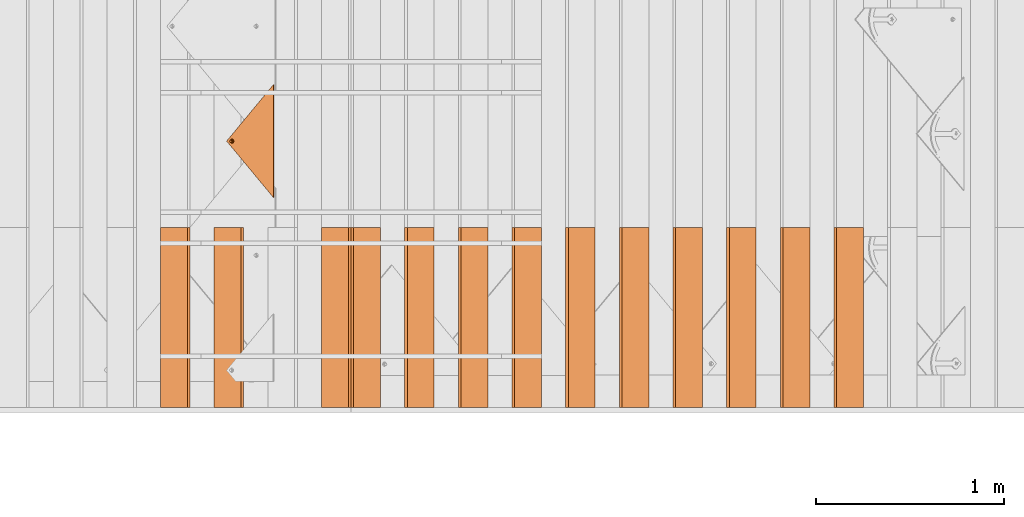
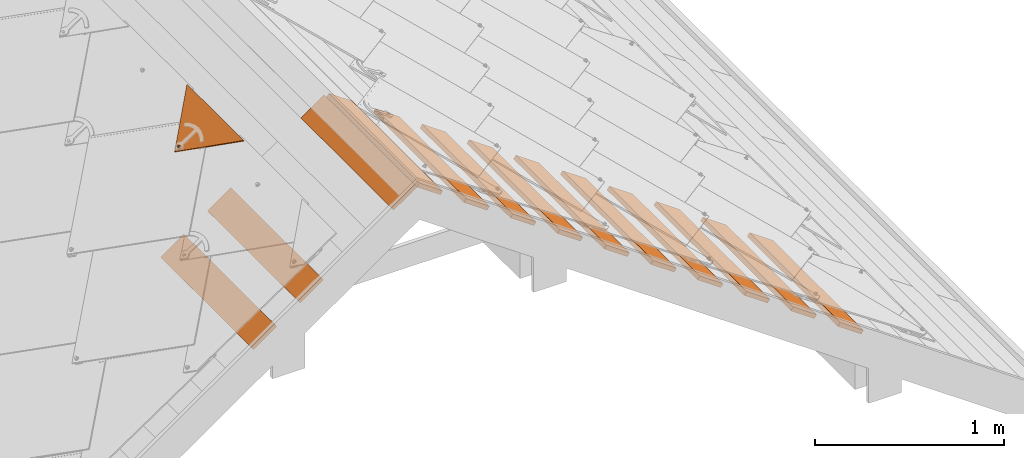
# One storey, part 99 of 133: 14 proxies, 1 element without a shape of its own.
"""IFC2X3 building model written with IfcOpenShell, lengths in millimetres."""

from ifc_helpers import new_model, entity, si_unit, converted_unit, derived_unit, direction, frame, frame_2d, origin, place, context, subcontext, project, spatial, rectangle, extrude, faceted_brep, source, transform, mapped, material, material_list, type_object, type_shapes, element, aggregate, save


model = new_model("IFC2X3")

# Units and contexts
model_context = context("Model", 3, precision=0.01, world=origin(), true_north=direction((6.12303176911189e-17, 1.0)))
body_context = subcontext(model_context, "Body", "Model", "MODEL_VIEW")
ifc_project = project(units=[si_unit("LENGTHUNIT", "METRE", prefix="MILLI"), si_unit("AREAUNIT", "SQUARE_METRE"), si_unit("VOLUMEUNIT", "CUBIC_METRE"), converted_unit("PLANEANGLEUNIT", "DEGREE", entity("IfcRatioMeasure", 0.0174532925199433), si_unit("PLANEANGLEUNIT", "RADIAN"), dimensions=[0, 0, 0, 0, 0, 0, 0]), si_unit("MASSUNIT", "GRAM", prefix="KILO"), derived_unit("MASSDENSITYUNIT", [(si_unit("MASSUNIT", "GRAM", prefix="KILO"), 1), (si_unit("LENGTHUNIT", "METRE"), -3)]), si_unit("TIMEUNIT", "SECOND"), si_unit("FREQUENCYUNIT", "HERTZ"), si_unit("THERMODYNAMICTEMPERATUREUNIT", "DEGREE_CELSIUS"), derived_unit("THERMALTRANSMITTANCEUNIT", [(si_unit("MASSUNIT", "GRAM", prefix="KILO"), 1), (si_unit("THERMODYNAMICTEMPERATUREUNIT", "KELVIN"), -1), (si_unit("TIMEUNIT", "SECOND"), -3)]), derived_unit("VOLUMETRICFLOWRATEUNIT", [(si_unit("LENGTHUNIT", "METRE"), 3), (si_unit("TIMEUNIT", "SECOND"), -1)]), si_unit("ELECTRICCURRENTUNIT", "AMPERE"), si_unit("ELECTRICVOLTAGEUNIT", "VOLT"), si_unit("POWERUNIT", "WATT"), si_unit("FORCEUNIT", "NEWTON", prefix="KILO"), si_unit("ILLUMINANCEUNIT", "LUX"), si_unit("LUMINOUSFLUXUNIT", "LUMEN"), si_unit("LUMINOUSINTENSITYUNIT", "CANDELA"), derived_unit("USERDEFINED", [(si_unit("MASSUNIT", "GRAM", prefix="KILO"), -1), (si_unit("LENGTHUNIT", "METRE"), -2), (si_unit("TIMEUNIT", "SECOND"), 3), (si_unit("LUMINOUSFLUXUNIT", "LUMEN"), 1)]), derived_unit("LINEARVELOCITYUNIT", [(si_unit("LENGTHUNIT", "METRE"), 1), (si_unit("TIMEUNIT", "SECOND"), -1)]), si_unit("PRESSUREUNIT", "PASCAL"), derived_unit("USERDEFINED", [(si_unit("LENGTHUNIT", "METRE"), -2), (si_unit("MASSUNIT", "GRAM", prefix="KILO"), 1), (si_unit("TIMEUNIT", "SECOND"), -2)])], contexts=[model_context])

# Site, building, storey
site_placement = place(None, origin())
site = spatial("IfcSite", under=ifc_project, at=site_placement, Name="Default", CompositionType="ELEMENT")
building_placement = place(site_placement, origin())
building = spatial("IfcBuilding", under=site, at=building_placement, CompositionType="ELEMENT")
storey_placement = place(building_placement, origin())
storey = spatial("IfcBuildingStorey", under=building, at=storey_placement, Name="Level 1", CompositionType="ELEMENT", Elevation=0.0)

# Assembly, proxies
assembly_placement = place(storey_placement, origin())
assembly = element("IfcElementAssembly", 1, at=assembly_placement, inside=storey, Name="Structural Framing Assembly:Roof Construction Assembly", ObjectType="Structural Framing Assembly:Roof Construction Assembly", AssemblyPlace="NOTDEFINED", PredefinedType="USERDEFINED")
ifc_material_1 = material(Name="Wood - Generic - Wood For Showcase")
building_element_proxy_type_1 = type_object("IfcBuildingElementProxyType", Name="Structural Framing 15", PredefinedType="NOTDEFINED", material=ifc_material_1)
shared_shape_1 = source(origin(), body_context, "Body", "SweptSolid", [
    extrude(rectangle(XDim=24.9999999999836, YDim=174.344679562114, at=frame_2d((3.79252185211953e-13, 7.105427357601e-14), x_axis=(1.0, 0.0))), frame((1285.3560130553, 2967.09519417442, 2760.23940055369), z_axis=(0.0, 1.0, 0.0), x_axis=(0.573576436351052, 0.0, 0.819152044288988)), (0.0, 0.0, 1.0), 958.455607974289),
])
type_shapes(building_element_proxy_type_1, [shared_shape_1])
proxy_1_placement = place(assembly_placement, frame((0.0, -9670.0, 0.0)))
proxy_1 = element("IfcBuildingElementProxy", 2, at=proxy_1_placement, type_object=building_element_proxy_type_1, material=ifc_material_1, Name="Structural Framing 159:Structural Framing 15", ObjectType="Structural Framing 159:Structural Framing 15", context=body_context, shape_type="MappedRepresentation", body=[
    mapped(shared_shape_1, transform((0.0, 0.0, 0.0), scale=1.0)),
])
building_element_proxy_type_2 = type_object("IfcBuildingElementProxyType", Name="Structural Framing 15", PredefinedType="NOTDEFINED", material=ifc_material_1)
shared_shape_2 = source(origin(), body_context, "Body", "SweptSolid", [
    extrude(rectangle(XDim=24.9999999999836, YDim=174.344679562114, at=frame_2d((3.79252185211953e-13, 7.105427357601e-14), x_axis=(1.0, 0.0))), frame((1285.3560130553, 2967.09519417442, 2760.23940055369), z_axis=(0.0, 1.0, 0.0), x_axis=(0.573576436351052, 0.0, 0.819152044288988)), (0.0, 0.0, 1.0), 958.455607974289),
])
type_shapes(building_element_proxy_type_2, [shared_shape_2])
proxy_2_placement = place(assembly_placement, frame((285.629601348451, -9670.0, -200.0)))
proxy_2 = element("IfcBuildingElementProxy", 3, at=proxy_2_placement, type_object=building_element_proxy_type_2, material=ifc_material_1, Name="Structural Framing 169:Structural Framing 15", ObjectType="Structural Framing 169:Structural Framing 15", context=body_context, shape_type="MappedRepresentation", body=[
    mapped(shared_shape_2, transform((0.0, 0.0, 0.0), scale=1.0)),
])
building_element_proxy_type_3 = type_object("IfcBuildingElementProxyType", Name="Structural Framing 15", PredefinedType="NOTDEFINED", material=ifc_material_1)
shared_shape_3 = source(origin(), body_context, "Body", "SweptSolid", [
    extrude(rectangle(XDim=24.9999999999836, YDim=174.344679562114, at=frame_2d((3.79252185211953e-13, 7.105427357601e-14), x_axis=(1.0, 0.0))), frame((1285.3560130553, 2967.09519417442, 2760.23940055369), z_axis=(0.0, 1.0, 0.0), x_axis=(0.573576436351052, 0.0, 0.819152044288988)), (0.0, 0.0, 1.0), 958.455607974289),
])
type_shapes(building_element_proxy_type_3, [shared_shape_3])
proxy_3_placement = place(assembly_placement, frame((571.259202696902, -9670.0, -400.0)))
proxy_3 = element("IfcBuildingElementProxy", 4, at=proxy_3_placement, type_object=building_element_proxy_type_3, material=ifc_material_1, Name="Structural Framing 179:Structural Framing 15", ObjectType="Structural Framing 179:Structural Framing 15", context=body_context, shape_type="MappedRepresentation", body=[
    mapped(shared_shape_3, transform((0.0, 0.0, 0.0), scale=1.0)),
])
building_element_proxy_type_4 = type_object("IfcBuildingElementProxyType", Name="Structural Framing 15", PredefinedType="NOTDEFINED", material=ifc_material_1)
shared_shape_4 = source(origin(), body_context, "Body", "SweptSolid", [
    extrude(rectangle(XDim=24.9999999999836, YDim=174.344679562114, at=frame_2d((3.79252185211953e-13, 7.105427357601e-14), x_axis=(1.0, 0.0))), frame((1285.3560130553, 2967.09519417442, 2760.23940055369), z_axis=(0.0, 1.0, 0.0), x_axis=(0.573576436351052, 0.0, 0.819152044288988)), (0.0, 0.0, 1.0), 958.455607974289),
])
type_shapes(building_element_proxy_type_4, [shared_shape_4])
proxy_4_placement = place(assembly_placement, frame((856.888804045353, -9670.0, -600.0)))
proxy_4 = element("IfcBuildingElementProxy", 5, at=proxy_4_placement, type_object=building_element_proxy_type_4, material=ifc_material_1, Name="Structural Framing 189:Structural Framing 15", ObjectType="Structural Framing 189:Structural Framing 15", context=body_context, shape_type="MappedRepresentation", body=[
    mapped(shared_shape_4, transform((0.0, 0.0, 0.0), scale=1.0)),
])
building_element_proxy_type_5 = type_object("IfcBuildingElementProxyType", Name="Structural Framing 15", PredefinedType="NOTDEFINED", material=ifc_material_1)
shared_shape_5 = source(origin(), body_context, "Body", "SweptSolid", [
    extrude(rectangle(XDim=24.9999999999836, YDim=174.344679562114, at=frame_2d((3.79252185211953e-13, 7.105427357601e-14), x_axis=(1.0, 0.0))), frame((1285.3560130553, 2967.09519417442, 2760.23940055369), z_axis=(0.0, 1.0, 0.0), x_axis=(0.573576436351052, 0.0, 0.819152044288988)), (0.0, 0.0, 1.0), 958.455607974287),
])
type_shapes(building_element_proxy_type_5, [shared_shape_5])
proxy_5_placement = place(assembly_placement, frame((1142.5184053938, -9670.0, -800.0)))
proxy_5 = element("IfcBuildingElementProxy", 6, at=proxy_5_placement, type_object=building_element_proxy_type_5, material=ifc_material_1, Name="Structural Framing 199:Structural Framing 15", ObjectType="Structural Framing 199:Structural Framing 15", context=body_context, shape_type="MappedRepresentation", body=[
    mapped(shared_shape_5, transform((0.0, 0.0, 0.0), scale=1.0)),
])
building_element_proxy_type_6 = type_object("IfcBuildingElementProxyType", Name="Structural Framing 15", PredefinedType="NOTDEFINED", material=ifc_material_1)
shared_shape_6 = source(origin(), body_context, "Body", "SweptSolid", [
    extrude(rectangle(XDim=24.9999999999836, YDim=174.344679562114, at=frame_2d((3.79252185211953e-13, 7.105427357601e-14), x_axis=(1.0, 0.0))), frame((1285.3560130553, 2967.09519417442, 2760.23940055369), z_axis=(0.0, 1.0, 0.0), x_axis=(0.573576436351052, 0.0, 0.819152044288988)), (0.0, 0.0, 1.0), 958.455607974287),
])
type_shapes(building_element_proxy_type_6, [shared_shape_6])
proxy_6_placement = place(assembly_placement, frame((1428.14800674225, -9670.0, -1000.0)))
proxy_6 = element("IfcBuildingElementProxy", 7, at=proxy_6_placement, type_object=building_element_proxy_type_6, material=ifc_material_1, Name="Structural Framing 209:Structural Framing 15", ObjectType="Structural Framing 209:Structural Framing 15", context=body_context, shape_type="MappedRepresentation", body=[
    mapped(shared_shape_6, transform((0.0, 0.0, 0.0), scale=1.0)),
])
building_element_proxy_type_7 = type_object("IfcBuildingElementProxyType", Name="Structural Framing 15", PredefinedType="NOTDEFINED", material=ifc_material_1)
shared_shape_7 = source(origin(), body_context, "Body", "SweptSolid", [
    extrude(rectangle(XDim=24.9999999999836, YDim=174.344679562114, at=frame_2d((3.79252185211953e-13, 7.105427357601e-14), x_axis=(1.0, 0.0))), frame((1285.3560130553, 2967.09519417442, 2760.23940055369), z_axis=(0.0, 1.0, 0.0), x_axis=(0.573576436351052, 0.0, 0.819152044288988)), (0.0, 0.0, 1.0), 958.455607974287),
])
type_shapes(building_element_proxy_type_7, [shared_shape_7])
proxy_7_placement = place(assembly_placement, frame((1713.7776080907, -9670.0, -1200.0)))
proxy_7 = element("IfcBuildingElementProxy", 8, at=proxy_7_placement, type_object=building_element_proxy_type_7, material=ifc_material_1, Name="Structural Framing 219:Structural Framing 15", ObjectType="Structural Framing 219:Structural Framing 15", context=body_context, shape_type="MappedRepresentation", body=[
    mapped(shared_shape_7, transform((0.0, 0.0, 0.0), scale=1.0)),
])
building_element_proxy_type_8 = type_object("IfcBuildingElementProxyType", Name="Structural Framing 15", PredefinedType="NOTDEFINED", material=ifc_material_1)
shared_shape_8 = source(origin(), body_context, "Body", "SweptSolid", [
    extrude(rectangle(XDim=24.9999999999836, YDim=174.344679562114, at=frame_2d((3.79252185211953e-13, 7.105427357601e-14), x_axis=(1.0, 0.0))), frame((1285.3560130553, 2967.09519417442, 2760.23940055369), z_axis=(0.0, 1.0, 0.0), x_axis=(0.573576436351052, 0.0, 0.819152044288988)), (0.0, 0.0, 1.0), 958.455607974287),
])
type_shapes(building_element_proxy_type_8, [shared_shape_8])
proxy_8_placement = place(assembly_placement, frame((1999.40720943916, -9670.0, -1400.0)))
proxy_8 = element("IfcBuildingElementProxy", 9, at=proxy_8_placement, type_object=building_element_proxy_type_8, material=ifc_material_1, Name="Structural Framing 229:Structural Framing 15", ObjectType="Structural Framing 229:Structural Framing 15", context=body_context, shape_type="MappedRepresentation", body=[
    mapped(shared_shape_8, transform((0.0, 0.0, 0.0), scale=1.0)),
])
building_element_proxy_type_9 = type_object("IfcBuildingElementProxyType", Name="Structural Framing 15", PredefinedType="NOTDEFINED", material=ifc_material_1)
shared_shape_9 = source(origin(), body_context, "Body", "SweptSolid", [
    extrude(rectangle(XDim=24.9999999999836, YDim=174.344679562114, at=frame_2d((3.79252185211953e-13, 7.105427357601e-14), x_axis=(1.0, 0.0))), frame((1285.3560130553, 2967.09519417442, 2760.23940055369), z_axis=(0.0, 1.0, 0.0), x_axis=(0.573576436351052, 0.0, 0.819152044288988)), (0.0, 0.0, 1.0), 958.455607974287),
])
type_shapes(building_element_proxy_type_9, [shared_shape_9])
proxy_9_placement = place(assembly_placement, frame((2285.03681078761, -9670.0, -1600.0)))
proxy_9 = element("IfcBuildingElementProxy", 10, at=proxy_9_placement, type_object=building_element_proxy_type_9, material=ifc_material_1, Name="Structural Framing 239:Structural Framing 15", ObjectType="Structural Framing 239:Structural Framing 15", context=body_context, shape_type="MappedRepresentation", body=[
    mapped(shared_shape_9, transform((0.0, 0.0, 0.0), scale=1.0)),
])
building_element_proxy_type_10 = type_object("IfcBuildingElementProxyType", Name="Structural Framing 15", PredefinedType="NOTDEFINED", material=ifc_material_1)
shared_shape_10 = source(origin(), body_context, "Body", "SweptSolid", [
    extrude(rectangle(XDim=24.9999999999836, YDim=174.344679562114, at=frame_2d((3.79252185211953e-13, 7.105427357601e-14), x_axis=(1.0, 0.0))), frame((1285.3560130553, 2967.09519417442, 2760.23940055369), z_axis=(0.0, 1.0, 0.0), x_axis=(0.573576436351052, 0.0, 0.819152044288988)), (0.0, 0.0, 1.0), 958.455607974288),
])
type_shapes(building_element_proxy_type_10, [shared_shape_10])
proxy_10_placement = place(assembly_placement, frame((2570.66641213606, -9670.0, -1800.0)))
proxy_10 = element("IfcBuildingElementProxy", 11, at=proxy_10_placement, type_object=building_element_proxy_type_10, material=ifc_material_1, Name="Structural Framing 249:Structural Framing 15", ObjectType="Structural Framing 249:Structural Framing 15", context=body_context, shape_type="MappedRepresentation", body=[
    mapped(shared_shape_10, transform((0.0, 0.0, 0.0), scale=1.0)),
])
building_element_proxy_type_11 = type_object("IfcBuildingElementProxyType", Name="Structural Framing 15", PredefinedType="NOTDEFINED", material=ifc_material_1)
shared_shape_11 = source(origin(), body_context, "Body", "SweptSolid", [
    extrude(rectangle(XDim=24.9999999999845, YDim=174.344679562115, at=frame_2d((-1.77635683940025e-13, -4.54747350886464e-13), x_axis=(0.0, 1.0))), frame((1128.20180147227, 2967.09519417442, 2760.23940055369), z_axis=(0.0, 1.0, 0.0), x_axis=(-0.819152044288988, 0.0, -0.573576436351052)), (0.0, 0.0, 1.0), 958.455607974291),
])
type_shapes(building_element_proxy_type_11, [shared_shape_11])
proxy_11_placement = place(assembly_placement, frame((0.0, -9670.0, 0.0)))
proxy_11 = element("IfcBuildingElementProxy", 12, at=proxy_11_placement, type_object=building_element_proxy_type_11, material=ifc_material_1, Name="Structural Framing 19:Structural Framing 15", ObjectType="Structural Framing 19:Structural Framing 15", context=body_context, shape_type="MappedRepresentation", body=[
    mapped(shared_shape_11, transform((0.0, 0.0, 0.0), scale=1.0)),
])
building_element_proxy_type_12 = type_object("IfcBuildingElementProxyType", Name="Structural Framing 15", PredefinedType="NOTDEFINED", material=ifc_material_1)
shared_shape_12 = source(origin(), body_context, "Body", "SweptSolid", [
    extrude(rectangle(XDim=24.9999999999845, YDim=174.344679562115, at=frame_2d((-1.77635683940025e-13, -4.54747350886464e-13), x_axis=(0.0, 1.0))), frame((1128.20180147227, 2967.09519417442, 2760.23940055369), z_axis=(0.0, 1.0, 0.0), x_axis=(-0.819152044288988, 0.0, -0.573576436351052)), (0.0, 0.0, 1.0), 958.455607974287),
])
type_shapes(building_element_proxy_type_12, [shared_shape_12])
proxy_12_placement = place(assembly_placement, frame((-571.259202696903, -9670.0, -400.0)))
proxy_12 = element("IfcBuildingElementProxy", 13, at=proxy_12_placement, type_object=building_element_proxy_type_12, material=ifc_material_1, Name="Structural Framing 39:Structural Framing 15", ObjectType="Structural Framing 39:Structural Framing 15", context=body_context, shape_type="MappedRepresentation", body=[
    mapped(shared_shape_12, transform((0.0, 0.0, 0.0), scale=1.0)),
])
building_element_proxy_type_13 = type_object("IfcBuildingElementProxyType", Name="Structural Framing 15", PredefinedType="NOTDEFINED", material=ifc_material_1)
shared_shape_13 = source(origin(), body_context, "Body", "SweptSolid", [
    extrude(rectangle(XDim=24.9999999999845, YDim=174.344679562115, at=frame_2d((-1.77635683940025e-13, -4.54747350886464e-13), x_axis=(0.0, 1.0))), frame((1128.20180147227, 2967.09519417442, 2760.23940055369), z_axis=(0.0, 1.0, 0.0), x_axis=(-0.819152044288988, 0.0, -0.573576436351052)), (0.0, 0.0, 1.0), 958.455607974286),
])
type_shapes(building_element_proxy_type_13, [shared_shape_13])
proxy_13_placement = place(assembly_placement, frame((-856.888804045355, -9670.0, -600.0)))
proxy_13 = element("IfcBuildingElementProxy", 14, at=proxy_13_placement, type_object=building_element_proxy_type_13, material=ifc_material_1, Name="Structural Framing 49:Structural Framing 15", ObjectType="Structural Framing 49:Structural Framing 15", context=body_context, shape_type="MappedRepresentation", body=[
    mapped(shared_shape_13, transform((0.0, 0.0, 0.0), scale=1.0)),
])
aggregate(assembly, [proxy_1, proxy_2, proxy_3, proxy_4, proxy_5, proxy_6, proxy_7, proxy_8, proxy_9, proxy_10, proxy_11, proxy_12, proxy_13])

# Proxy
ifc_material_2 = material(Name="Rubber - Sunstyle - Black")
ifc_material_3 = material(Name="Glass - Sunstyle - Tainted Black")
ifc_material_list_1 = material_list([ifc_material_2, ifc_material_3])
ifc_material_list_2 = material_list([ifc_material_2, ifc_material_3])
building_element_proxy_type_14 = type_object("IfcBuildingElementProxyType", Name="Shingle Top Small - Black", PredefinedType="NOTDEFINED", material=ifc_material_list_2)
shared_shape_14 = source(origin(), body_context, "Body", "Brep", [
    faceted_brep([(300.675008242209, 41.77298489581, 1.59527223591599), (294.900805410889, 38.4397147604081, 1.65109621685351), (294.900805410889, 38.8080238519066, 23.6429655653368), (300.675008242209, 42.1412939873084, 23.5871415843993), (294.900805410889, 31.7731744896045, 1.76274417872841), (294.900805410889, 32.1414835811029, 23.7546135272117), (300.675008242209, 28.4399043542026, 1.81856815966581), (300.675008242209, 28.808213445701, 23.8104375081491), (306.44921107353, 31.7731744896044, 1.7627441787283), (306.44921107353, 32.1414835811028, 23.7546135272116), (306.44921107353, 38.4397147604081, 1.65109621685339), (306.44921107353, 38.8080238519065, 23.6429655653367), (292.071304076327, 26.8722558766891, 23.8428599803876), (300.675008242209, 23.3089846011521, 23.9025359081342), (288.507533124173, 35.4747537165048, 23.6987895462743), (292.071304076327, 44.0772515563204, 23.5547191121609), (300.675008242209, 47.6405228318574, 23.4950431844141), (309.278712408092, 44.0772515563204, 23.5547191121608), (312.842483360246, 35.4747537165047, 23.6987895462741), (309.278712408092, 26.872255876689, 23.8428599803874), (289.350763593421, 37.7698308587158, 26.0116314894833), (290.91853368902, 35.5457686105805, 27.9391141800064), (300.67500824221, 42.8588438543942, 28.5718145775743), (300.67500824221, 44.0993414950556, 27.9914679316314), (300.675008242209, 46.2568923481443, 26.98209285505), (300.675008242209, 23.8650286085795, 25.1775938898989), (300.675008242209, 24.8086052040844, 27.3412982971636), (300.675008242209, 28.2579809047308, 28.8163427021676), (300.675008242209, 47.1274867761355, 24.7880055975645), (294.35176254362, 31.9081966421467, 28.7552106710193), (294.35176254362, 39.2086281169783, 28.6329466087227), (311.999252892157, 33.2584106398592, 26.0871865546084), (310.523888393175, 34.4713621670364, 27.8602460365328), (306.998253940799, 39.2086281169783, 28.6329466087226), (306.998253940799, 31.9081966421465, 28.7552106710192), (294.35176254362, 32.0422251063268, 36.7580988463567), (300.67500824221, 28.3920093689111, 36.8192308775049), (300.67500824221, 35.6924408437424, 36.6969668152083), (294.35176254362, 39.342656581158, 36.6358347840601), (306.998253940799, 32.0422251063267, 36.7580988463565), (306.998253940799, 39.342656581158, 36.6358347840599), (300.67500824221, 42.9928723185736, 36.5747027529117), (300.675008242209, 35.1064446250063, 1.7069201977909)], [[[0, 1, 2, 3]], [[1, 4, 5, 2]], [[4, 6, 7, 5]], [[6, 8, 9, 7]], [[8, 10, 11, 9]], [[10, 0, 3, 11]], [[12, 7, 13]], [[7, 12, 5]], [[14, 5, 12]], [[5, 14, 2]], [[15, 2, 14]], [[3, 2, 15]], [[15, 16, 3]], [[16, 17, 3]], [[11, 3, 17]], [[11, 17, 18]], [[9, 11, 18]], [[18, 19, 9]], [[7, 9, 19]], [[19, 13, 7]], [[20, 14, 12]], [[21, 22, 23, 24]], [[24, 20, 21]], [[25, 20, 12]], [[26, 27, 21]], [[15, 14, 20]], [[12, 13, 25]], [[20, 28, 15]], [[28, 20, 24]], [[21, 27, 29]], [[21, 29, 30]], [[26, 21, 20]], [[20, 25, 26]], [[15, 28, 16]], [[21, 30, 22]], [[31, 18, 17]], [[28, 31, 17]], [[32, 27, 26]], [[26, 31, 32]], [[26, 25, 31]], [[25, 19, 31]], [[17, 16, 28]], [[31, 19, 18]], [[24, 31, 28]], [[33, 34, 32]], [[23, 22, 33]], [[24, 32, 31]], [[27, 32, 34]], [[32, 23, 33]], [[19, 25, 13]], [[32, 24, 23]], [[35, 36, 37]], [[37, 38, 35]], [[36, 39, 37]], [[40, 37, 39]], [[37, 40, 41]], [[37, 41, 38]], [[42, 6, 4]], [[4, 1, 42]], [[1, 0, 42]], [[42, 8, 6]], [[0, 10, 42]], [[8, 42, 10]], [[22, 30, 38, 41]], [[30, 29, 35, 38]], [[29, 27, 36, 35]], [[27, 34, 39, 36]], [[34, 33, 40, 39]], [[33, 22, 41, 40]]]),
    faceted_brep([(601.350661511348, 300.716609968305, 19.1616152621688), (307.603211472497, 39.4797476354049, 23.5366826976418), (308.402414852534, 37.5505705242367, 23.5689916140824), (306.331862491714, 41.1363695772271, 23.5089384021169), (308.675008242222, 35.4803084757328, 23.6036633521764), (304.675008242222, 42.4075403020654, 23.4876494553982), (302.745560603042, 43.206631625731, 23.4742666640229), (300.675008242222, 43.4791867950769, 23.4697020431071), (308.402414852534, 33.4100464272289, 23.6383350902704), (300.675330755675, 0.125588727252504, 24.1957669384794), (0.0, 300.716609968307, 19.1616152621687), (298.604455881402, 43.2066316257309, 23.4742666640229), (296.675008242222, 42.4075403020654, 23.4876494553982), (295.018153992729, 41.136369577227, 23.5089384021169), (293.746805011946, 39.4797476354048, 23.5366826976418), (292.947601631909, 37.5505705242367, 23.5689916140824), (292.675008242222, 35.4803084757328, 23.6036633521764), (292.947601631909, 33.4100464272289, 23.6383350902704), (293.746805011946, 31.4808693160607, 23.6706440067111), (307.603211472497, 31.4808693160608, 23.6706440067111), (306.331862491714, 29.8242473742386, 23.698388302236), (304.675008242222, 28.5530766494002, 23.7196772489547), (302.745560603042, 27.7539853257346, 23.73306004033), (300.675008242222, 27.4814301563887, 23.7376246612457), (298.604455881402, 27.7539853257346, 23.73306004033), (296.675008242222, 28.5530766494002, 23.7196772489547), (295.018153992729, 29.8242473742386, 23.698388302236), (0.0, 300.591021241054, 11.6626668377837), (295.018153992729, 41.0107808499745, 16.0099899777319), (293.746805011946, 39.3541589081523, 16.0377342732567), (296.675008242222, 42.2819515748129, 15.9887010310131), (292.947601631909, 37.4249817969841, 16.0700431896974), (298.604455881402, 43.0810428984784, 15.9753182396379), (300.675008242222, 43.3535980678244, 15.9707536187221), (601.350661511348, 300.591021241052, 11.6626668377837), (292.675008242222, 35.3547197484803, 16.1047149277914), (292.947601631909, 33.2844576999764, 16.1393866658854), (300.675330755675, 0.0, 16.6968185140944), (302.745560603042, 43.0810428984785, 15.9753182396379), (304.675008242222, 42.2819515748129, 15.9887010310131), (306.331862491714, 41.0107808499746, 16.0099899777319), (307.603211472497, 39.3541589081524, 16.0377342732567), (308.402414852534, 37.4249817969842, 16.0700431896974), (308.675008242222, 35.3547197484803, 16.1047149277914), (308.402414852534, 33.2844576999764, 16.1393866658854), (307.603211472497, 31.3552805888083, 16.171695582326), (293.746805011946, 31.3552805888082, 16.171695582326), (295.018153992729, 29.6986586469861, 16.1994398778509), (296.675008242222, 28.4274879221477, 16.2207288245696), (298.604455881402, 27.6283965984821, 16.2341116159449), (300.675008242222, 27.3558414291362, 16.2386762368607), (302.745560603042, 27.6283965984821, 16.2341116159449), (304.675008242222, 28.4274879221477, 16.2207288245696), (306.331862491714, 29.6986586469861, 16.1994398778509)], [[[0, 1, 2]], [[1, 0, 3]], [[0, 2, 4]], [[5, 3, 0]], [[6, 5, 0]], [[0, 7, 6]], [[4, 8, 0]], [[8, 9, 0]], [[7, 0, 10]], [[11, 7, 10]], [[12, 11, 10]], [[10, 13, 12]], [[13, 10, 14]], [[15, 14, 10]], [[10, 16, 15]], [[17, 16, 10]], [[10, 9, 17]], [[17, 9, 18]], [[8, 19, 9]], [[20, 9, 19]], [[20, 21, 9]], [[22, 9, 21]], [[23, 9, 22]], [[23, 24, 9]], [[24, 25, 9]], [[25, 26, 9]], [[9, 26, 18]], [[27, 28, 29]], [[28, 27, 30]], [[27, 29, 31]], [[32, 30, 27]], [[33, 32, 27]], [[27, 34, 33]], [[31, 35, 27]], [[35, 36, 27]], [[27, 36, 37]], [[38, 33, 34]], [[39, 38, 34]], [[40, 39, 34]], [[34, 41, 40]], [[41, 34, 42]], [[43, 42, 34]], [[34, 44, 43]], [[37, 44, 34]], [[45, 44, 37]], [[37, 36, 46]], [[37, 46, 47]], [[47, 48, 37]], [[48, 49, 37]], [[50, 37, 49]], [[50, 51, 37]], [[37, 51, 52]], [[52, 53, 37]], [[45, 37, 53]], [[9, 10, 27, 37]], [[0, 9, 37, 34]], [[16, 35, 31, 15]], [[15, 31, 29, 14]], [[12, 13, 28, 30]], [[28, 13, 14, 29]], [[11, 12, 30, 32]], [[11, 32, 33, 7]], [[7, 33, 38, 6]], [[6, 38, 39, 5]], [[1, 3, 40, 41]], [[40, 3, 5, 39]], [[2, 1, 41, 42]], [[2, 42, 43, 4]], [[4, 43, 44, 8]], [[8, 44, 45, 19]], [[21, 20, 53, 52]], [[53, 20, 19, 45]], [[22, 21, 52, 51]], [[22, 51, 50, 23]], [[23, 50, 49, 24]], [[24, 49, 48, 25]], [[18, 26, 47, 46]], [[47, 26, 25, 48]], [[17, 18, 46, 36]], [[17, 36, 35, 16]], [[10, 0, 34, 27]]]),
])
type_shapes(building_element_proxy_type_14, [shared_shape_14])
proxy_14_placement = place(storey_placement, frame((558.087990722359, -4982.99689457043, 2379.24450072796), z_axis=(-0.57357643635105, 0.0, 0.819152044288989), x_axis=(0.0, -1.0, 0.0)))
element("IfcBuildingElementProxy", 15, at=proxy_14_placement, inside=storey, type_object=building_element_proxy_type_14, material=ifc_material_list_1, Name="Roofing_Panels_SunStyle_Tile_Shingle-Top-Small:Shingle Top Small - Black", ObjectType="Roofing_Panels_SunStyle_Tile_Shingle-Top-Small:Shingle Top Small - Black", context=body_context, shape_type="MappedRepresentation", body=[
    mapped(shared_shape_14, transform((0.0, 0.0, 0.0), scale=1.0)),
])

save(model, "model.ifc")
